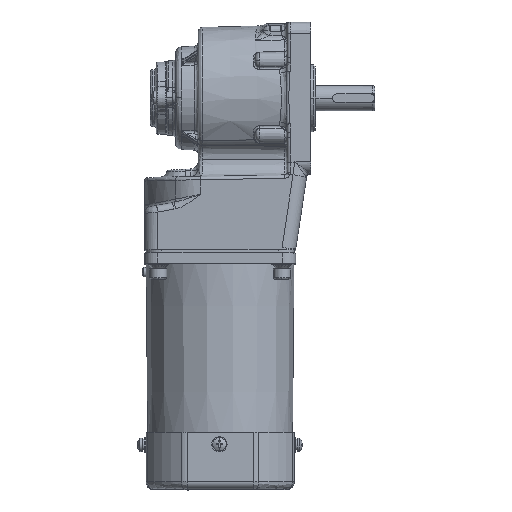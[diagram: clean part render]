
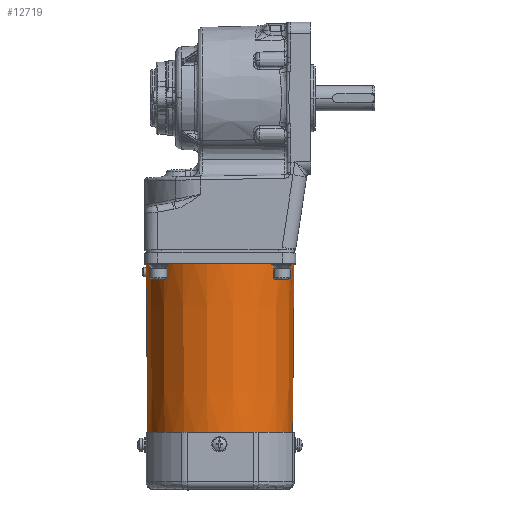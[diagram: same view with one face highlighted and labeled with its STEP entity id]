
A CAD part, top view. The second image highlights one B-rep face of the part: STEP entity #12719.
In plain terms, the highlighted conical face has half-angle 0.503 degrees and reference radius 44 mm.
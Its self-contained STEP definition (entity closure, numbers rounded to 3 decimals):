
#46 = CARTESIAN_POINT ( 'NONE',  ( -86.658, 8.969, 177.806 ) ) ;
#666 = LINE ( 'NONE', #33344, #12082 ) ;
#1018 = CARTESIAN_POINT ( 'NONE',  ( -86.658, 8.969, 134.701 ) ) ;
#1866 = DIRECTION ( 'NONE',  ( 0., 0., -1. ) ) ;
#2162 = AXIS2_PLACEMENT_3D ( 'NONE', #46, #77013, #1866 ) ;
#2937 = DIRECTION ( 'NONE',  ( 1., 0., 0. ) ) ;
#3046 = CARTESIAN_POINT ( 'NONE',  ( 15.341, 8.969, 177.806 ) ) ;
#3152 = DIRECTION ( 'NONE',  ( 0., 0., -1. ) ) ;
#4146 = CARTESIAN_POINT ( 'NONE',  ( 15.341, 8.969, 133.806 ) ) ;
#5433 = DIRECTION ( 'NONE',  ( 1., 0., -0.009 ) ) ;
#5652 = CARTESIAN_POINT ( 'NONE',  ( 15.341, 8.969, 133.806 ) ) ;
#5971 = VERTEX_POINT ( 'NONE', #43413 ) ;
#8079 = VECTOR ( 'NONE', #5433, 1000. ) ;
#12082 = VECTOR ( 'NONE', #35828, 1000. ) ;
#12719 = ADVANCED_FACE ( 'NONE', ( #75351 ), #76358, .T. ) ;
#14340 = VERTEX_POINT ( 'NONE', #4146 ) ;
#20684 = CARTESIAN_POINT ( 'NONE',  ( 15.341, 8.969, 177.806 ) ) ;
#23374 = CARTESIAN_POINT ( 'NONE',  ( -71.658, 8.969, 221.042 ) ) ;
#23957 = EDGE_CURVE ( 'NONE', #5971, #69244, #73173, .T. ) ;
#27654 = DIRECTION ( 'NONE',  ( 0., 0., -1. ) ) ;
#28954 = ORIENTED_EDGE ( 'NONE', *, *, #40688, .F. ) ;
#33344 = CARTESIAN_POINT ( 'NONE',  ( 15.341, 8.969, 221.806 ) ) ;
#34442 = VERTEX_POINT ( 'NONE', #1018 ) ;
#35828 = DIRECTION ( 'NONE',  ( 1., 0., 0.009 ) ) ;
#36114 = DIRECTION ( 'NONE',  ( -1., 0., -0.009 ) ) ;
#36408 = EDGE_CURVE ( 'NONE', #43441, #34442, #51392, .T. ) ;
#40688 = EDGE_CURVE ( 'NONE', #43441, #69244, #666, .T. ) ;
#41336 = EDGE_CURVE ( 'NONE', #34442, #14340, #50962, .T. ) ;
#43413 = CARTESIAN_POINT ( 'NONE',  ( 15.341, 8.969, 221.806 ) ) ;
#43441 = VERTEX_POINT ( 'NONE', #77034 ) ;
#49808 = EDGE_CURVE ( 'NONE', #14340, #5971, #79155, .T. ) ;
#50962 = LINE ( 'NONE', #5652, #8079 ) ;
#51392 = CIRCLE ( 'NONE', #2162, 43.105 ) ;
#53419 = ORIENTED_EDGE ( 'NONE', *, *, #23957, .T. ) ;
#57250 = CARTESIAN_POINT ( 'NONE',  ( 5.341, 8.969, 221.718 ) ) ;
#61461 = ORIENTED_EDGE ( 'NONE', *, *, #41336, .T. ) ;
#62083 = ORIENTED_EDGE ( 'NONE', *, *, #36408, .T. ) ;
#69238 = DIRECTION ( 'NONE',  ( -1., 0., 0. ) ) ;
#69244 = VERTEX_POINT ( 'NONE', #57250 ) ;
#70928 = AXIS2_PLACEMENT_3D ( 'NONE', #3046, #2937, #3152 ) ;
#73173 = LINE ( 'NONE', #23374, #73501 ) ;
#73501 = VECTOR ( 'NONE', #36114, 1000. ) ;
#75351 = FACE_OUTER_BOUND ( 'NONE', #80788, .T. ) ;
#76358 = CONICAL_SURFACE ( 'NONE', #70928, 44., 0.009 ) ;
#77013 = DIRECTION ( 'NONE',  ( 1., 0., 0. ) ) ;
#77034 = CARTESIAN_POINT ( 'NONE',  ( -86.658, 8.969, 220.911 ) ) ;
#79155 = CIRCLE ( 'NONE', #81985, 44. ) ;
#80788 = EDGE_LOOP ( 'NONE', ( #28954, #62083, #61461, #85128, #53419 ) ) ;
#81985 = AXIS2_PLACEMENT_3D ( 'NONE', #20684, #69238, #27654 ) ;
#85128 = ORIENTED_EDGE ( 'NONE', *, *, #49808, .T. ) ;
